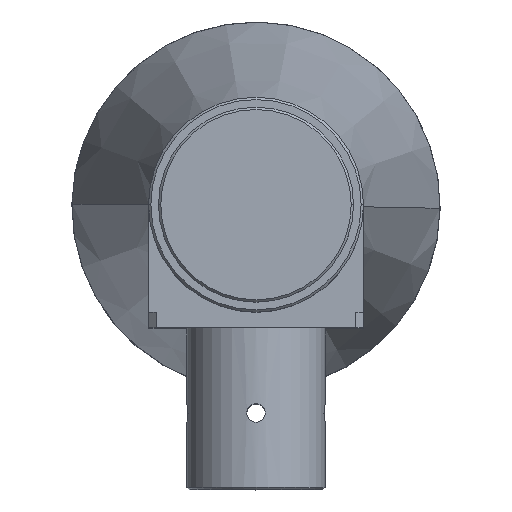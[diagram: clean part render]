
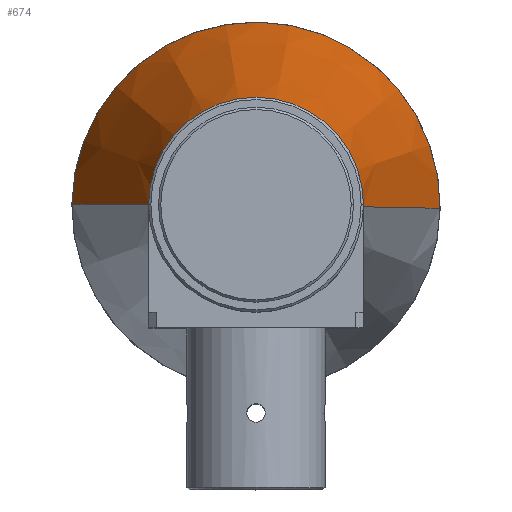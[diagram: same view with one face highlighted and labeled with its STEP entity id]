
A CAD part, top view. The second image highlights one B-rep face of the part: STEP entity #674.
In plain terms, the highlighted conical face has half-angle 12 degrees and reference radius 14 mm.
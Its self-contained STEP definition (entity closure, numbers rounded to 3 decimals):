
#248 = DIRECTION ( 'NONE',  ( 0., 0., 1. ) ) ;
#250 = EDGE_CURVE ( 'NONE', #1494, #1837, #1893, .T. ) ;
#253 = VERTEX_POINT ( 'NONE', #2097 ) ;
#285 = ORIENTED_EDGE ( 'NONE', *, *, #321, .T. ) ;
#321 = EDGE_CURVE ( 'NONE', #2317, #1494, #499, .T. ) ;
#376 = CARTESIAN_POINT ( 'NONE',  ( 14.021, -0.157, -36.72 ) ) ;
#499 = LINE ( 'NONE', #1868, #735 ) ;
#559 = AXIS2_PLACEMENT_3D ( 'NONE', #1370, #248, #676 ) ;
#593 = DIRECTION ( 'NONE',  ( 0., 0., -1. ) ) ;
#674 = ADVANCED_FACE ( 'NONE', ( #924 ), #1504, .T. ) ;
#676 = DIRECTION ( 'NONE',  ( 1., -0.011, 0. ) ) ;
#735 = VECTOR ( 'NONE', #2016, 1000. ) ;
#760 = CARTESIAN_POINT ( 'NONE',  ( -23.977, 0.268, -83.56 ) ) ;
#765 = DIRECTION ( 'NONE',  ( -1., 0.011, 0. ) ) ;
#914 = LINE ( 'NONE', #1582, #1728 ) ;
#924 = FACE_OUTER_BOUND ( 'NONE', #2362, .T. ) ;
#1081 = CIRCLE ( 'NONE', #1387, 14.022 ) ;
#1156 = ORIENTED_EDGE ( 'NONE', *, *, #2265, .T. ) ;
#1298 = DIRECTION ( 'NONE',  ( 0., 0., -1. ) ) ;
#1354 = CARTESIAN_POINT ( 'NONE',  ( 23.977, -0.268, -83.56 ) ) ;
#1370 = CARTESIAN_POINT ( 'NONE',  ( 0., 0., -83.56 ) ) ;
#1387 = AXIS2_PLACEMENT_3D ( 'NONE', #2202, #1298, #765 ) ;
#1494 = VERTEX_POINT ( 'NONE', #1354 ) ;
#1504 = CONICAL_SURFACE ( 'NONE', #1584, 14., 0.209 ) ;
#1514 = DIRECTION ( 'NONE',  ( -1., 0.011, 0. ) ) ;
#1582 = CARTESIAN_POINT ( 'NONE',  ( -13.999, 0.157, -36.617 ) ) ;
#1584 = AXIS2_PLACEMENT_3D ( 'NONE', #1702, #593, #1514 ) ;
#1702 = CARTESIAN_POINT ( 'NONE',  ( 0., 0., -36.617 ) ) ;
#1728 = VECTOR ( 'NONE', #2140, 1000. ) ;
#1837 = VERTEX_POINT ( 'NONE', #760 ) ;
#1868 = CARTESIAN_POINT ( 'NONE',  ( 13.999, -0.157, -36.617 ) ) ;
#1893 = CIRCLE ( 'NONE', #559, 23.978 ) ;
#2016 = DIRECTION ( 'NONE',  ( 0.208, -0.002, -0.978 ) ) ;
#2061 = ORIENTED_EDGE ( 'NONE', *, *, #250, .T. ) ;
#2097 = CARTESIAN_POINT ( 'NONE',  ( -14.021, 0.157, -36.72 ) ) ;
#2136 = ORIENTED_EDGE ( 'NONE', *, *, #2353, .F. ) ;
#2140 = DIRECTION ( 'NONE',  ( -0.208, 0.002, -0.978 ) ) ;
#2202 = CARTESIAN_POINT ( 'NONE',  ( 0., 0., -36.72 ) ) ;
#2265 = EDGE_CURVE ( 'NONE', #253, #2317, #1081, .T. ) ;
#2317 = VERTEX_POINT ( 'NONE', #376 ) ;
#2353 = EDGE_CURVE ( 'NONE', #253, #1837, #914, .T. ) ;
#2362 = EDGE_LOOP ( 'NONE', ( #1156, #285, #2061, #2136 ) ) ;
